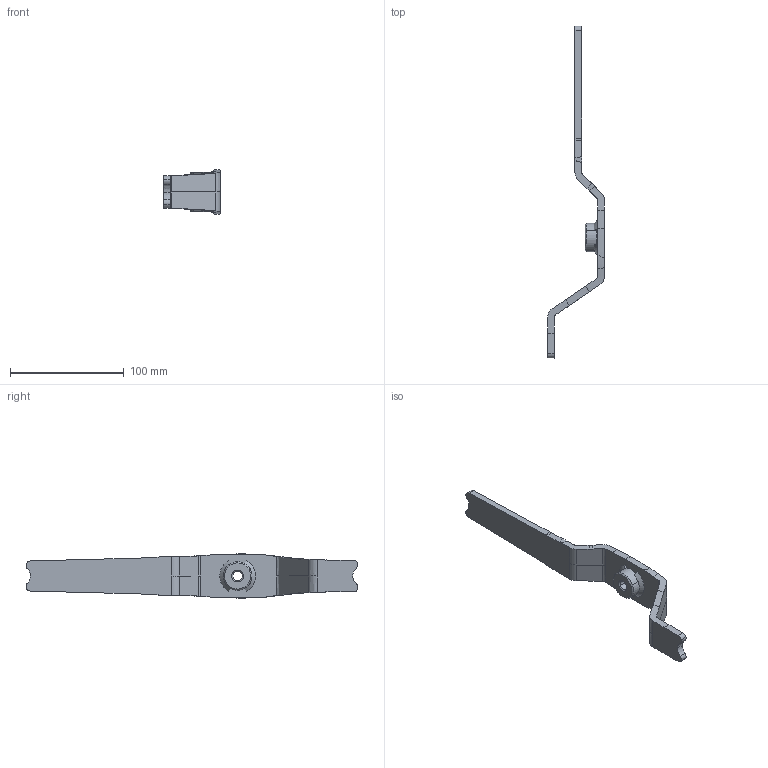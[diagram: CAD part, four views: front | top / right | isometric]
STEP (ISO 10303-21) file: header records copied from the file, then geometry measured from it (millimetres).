
FILE_DESCRIPTION(('CATIA V5 STEP Exchange'),'2;1');
FILE_NAME('C:\Users\nobody\Desktop\SLT0010556_C.stp','2024-03-05T02:07:11+00:00',('none'),('none'),'CATIA Version 5 Release 20 GA (IN-10)','CATIA V5 STEP AP203 Edition 2','none');
FILE_SCHEMA(('AP203_CONFIGURATION_CONTROLLED_3D_DESIGN_OF_MECHANICAL_PARTS_AND_ASSEMBLIES_MIM_LF { 1 0 10303 403 2 1 2}'));
Length unit declared in the file: millimetre
Products named in the file (4): SLT0010556; SLT0010548; SLT0010556-H; SLT0010269
Assembly tree (3 placements, depth 2):
  SLT0010556
    SLT0010548
    SLT0010556-H
    SLT0010269
Bounding box: 50 x 291.38 x 38.73 mm (x, y, z)
Volume: 65357.4 mm3; surface area: 27189.8 mm2
Topology: 4 solids, 4 shells, 113 faces, 298 edges, 193 vertices
Faces by surface type: cylinder 36, bspline 34, plane 23, cone 18, extrusion 2
Entity records: 8059 total; most frequent: CARTESIAN_POINT 5432, ORIENTED_EDGE 594, DIRECTION 322, EDGE_CURVE 297, VERTEX_POINT 193, AXIS2_PLACEMENT_3D 146, B_SPLINE_CURVE_WITH_KNOTS 145, EDGE_LOOP 118
